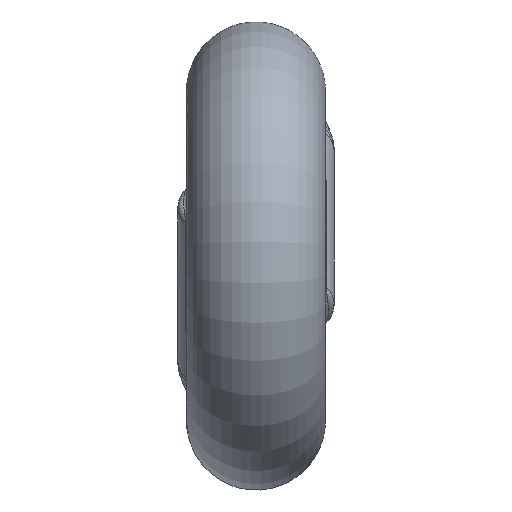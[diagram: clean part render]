
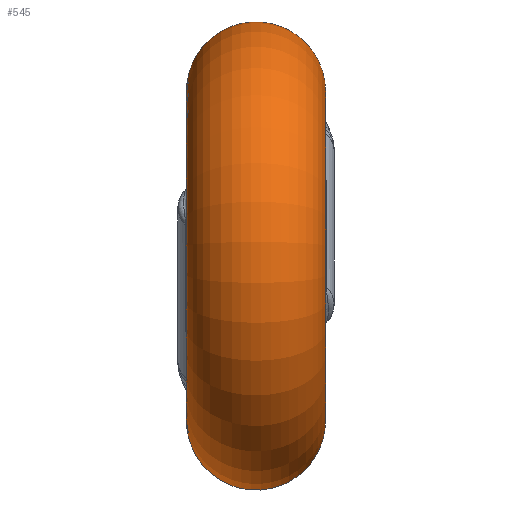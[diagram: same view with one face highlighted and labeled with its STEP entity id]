
A CAD part, left-side view. The second image highlights one B-rep face of the part: STEP entity #545.
In plain terms, the highlighted toroidal (fillet/blend) face has major radius 4.75 mm and minor radius 2 mm.
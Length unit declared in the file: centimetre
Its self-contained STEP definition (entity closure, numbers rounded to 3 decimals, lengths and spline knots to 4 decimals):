
#42=TOROIDAL_SURFACE('',#591,0.475,0.2);
#55=B_SPLINE_CURVE_WITH_KNOTS('',3,(#987,#988,#989,#990,#991,#992,#993),
 .UNSPECIFIED.,.F.,.F.,(4,1,1,1,4),(-0.2049,-0.1464,
-0.0878,-0.0439,0.),
 .UNSPECIFIED.);
#68=B_SPLINE_CURVE_WITH_KNOTS('',3,(#1414,#1415,#1416,#1417,#1418,#1419,
#1420),.UNSPECIFIED.,.F.,.F.,(4,1,1,1,4),(-0.2049,-0.1464,
-0.0878,-0.0439,0.),.UNSPECIFIED.);
#73=B_SPLINE_CURVE_WITH_KNOTS('',3,(#1707,#1708,#1709,#1710,#1711,#1712),
 .UNSPECIFIED.,.F.,.F.,(4,1,1,4),(-0.2392,-0.1709,
-0.1025,0.),.UNSPECIFIED.);
#75=B_SPLINE_CURVE_WITH_KNOTS('',3,(#1774,#1775,#1776,#1777,#1778,#1779,
#1780,#1781,#1782,#1783,#1784),.UNSPECIFIED.,.F.,.F.,(4,1,1,1,1,1,1,1,4),
(-0.4647,-0.3984,-0.332,-0.2656,
-0.1992,-0.1328,-0.0664,-0.0498,
0.),.UNSPECIFIED.);
#77=B_SPLINE_CURVE_WITH_KNOTS('',3,(#1803,#1804,#1805,#1806,#1807,#1808,
#1809,#1810,#1811,#1812,#1813),.UNSPECIFIED.,.F.,.F.,(4,1,1,1,1,1,1,1,4),
(-0.4647,-0.3983,-0.3319,-0.2656,
-0.1992,-0.1328,-0.0664,-0.0498,
0.),.UNSPECIFIED.);
#78=B_SPLINE_CURVE_WITH_KNOTS('',3,(#1816,#1817,#1818,#1819,#1820,#1821),
 .UNSPECIFIED.,.F.,.F.,(4,1,1,4),(-0.2392,-0.1709,
-0.1025,0.),.UNSPECIFIED.);
#99=FACE_BOUND('',#160,.T.);
#122=FACE_OUTER_BOUND('',#159,.T.);
#159=EDGE_LOOP('',(#427,#428,#429,#430));
#160=EDGE_LOOP('',(#431,#432,#433,#434));
#197=CIRCLE('',#592,0.475);
#198=CIRCLE('',#593,0.475);
#221=VERTEX_POINT('',#984);
#222=VERTEX_POINT('',#986);
#234=VERTEX_POINT('',#1411);
#235=VERTEX_POINT('',#1413);
#237=VERTEX_POINT('',#1563);
#244=VERTEX_POINT('',#1668);
#245=VERTEX_POINT('',#1802);
#246=VERTEX_POINT('',#1814);
#272=EDGE_CURVE('',#221,#222,#55,.T.);
#290=EDGE_CURVE('',#234,#235,#68,.T.);
#305=EDGE_CURVE('',#222,#244,#73,.T.);
#307=EDGE_CURVE('',#237,#221,#75,.T.);
#311=EDGE_CURVE('',#245,#234,#77,.T.);
#312=EDGE_CURVE('',#245,#246,#197,.T.);
#313=EDGE_CURVE('',#235,#246,#78,.T.);
#314=EDGE_CURVE('',#237,#244,#198,.T.);
#427=ORIENTED_EDGE('',*,*,#311,.F.);
#428=ORIENTED_EDGE('',*,*,#312,.T.);
#429=ORIENTED_EDGE('',*,*,#313,.F.);
#430=ORIENTED_EDGE('',*,*,#290,.F.);
#431=ORIENTED_EDGE('',*,*,#305,.F.);
#432=ORIENTED_EDGE('',*,*,#272,.F.);
#433=ORIENTED_EDGE('',*,*,#307,.F.);
#434=ORIENTED_EDGE('',*,*,#314,.T.);
#545=ADVANCED_FACE('',(#122,#99),#42,.T.);
#591=AXIS2_PLACEMENT_3D('',#1801,#677,#678);
#592=AXIS2_PLACEMENT_3D('',#1815,#679,#680);
#593=AXIS2_PLACEMENT_3D('',#1822,#681,#682);
#677=DIRECTION('center_axis',(0.,1.,0.));
#678=DIRECTION('ref_axis',(1.,0.,0.));
#679=DIRECTION('center_axis',(0.,1.,0.));
#680=DIRECTION('ref_axis',(-1.,0.,0.));
#681=DIRECTION('center_axis',(0.,-1.,0.));
#682=DIRECTION('ref_axis',(-1.,0.,0.));
#984=CARTESIAN_POINT('',(0.6017,0.0514,-0.3028));
#986=CARTESIAN_POINT('',(0.5176,0.177,-0.3882));
#987=CARTESIAN_POINT('Ctrl Pts',(0.6017,0.0514,-0.3028));
#988=CARTESIAN_POINT('Ctrl Pts',(0.5932,0.0526,-0.32));
#989=CARTESIAN_POINT('Ctrl Pts',(0.5758,0.0625,-0.3538));
#990=CARTESIAN_POINT('Ctrl Pts',(0.5529,0.0971,-0.388));
#991=CARTESIAN_POINT('Ctrl Pts',(0.5332,0.1393,-0.3989));
#992=CARTESIAN_POINT('Ctrl Pts',(0.5225,0.1651,-0.3934));
#993=CARTESIAN_POINT('Ctrl Pts',(0.5176,0.177,-0.3882));
#1411=CARTESIAN_POINT('',(0.6017,0.0986,0.3028));
#1413=CARTESIAN_POINT('',(0.5176,-0.027,0.3882));
#1414=CARTESIAN_POINT('Ctrl Pts',(0.6017,0.0986,
0.3028));
#1415=CARTESIAN_POINT('Ctrl Pts',(0.5932,0.0974,0.32));
#1416=CARTESIAN_POINT('Ctrl Pts',(0.5758,0.0875,
0.3538));
#1417=CARTESIAN_POINT('Ctrl Pts',(0.5529,0.0529,
0.388));
#1418=CARTESIAN_POINT('Ctrl Pts',(0.5332,0.0107,0.3989));
#1419=CARTESIAN_POINT('Ctrl Pts',(0.5225,-0.0151,
0.3934));
#1420=CARTESIAN_POINT('Ctrl Pts',(0.5176,-0.027,
0.3882));
#1563=CARTESIAN_POINT('',(0.4725,0.275,-0.0491));
#1668=CARTESIAN_POINT('',(0.4229,0.275,-0.2163));
#1707=CARTESIAN_POINT('Ctrl Pts',(0.5176,0.177,-0.3882));
#1708=CARTESIAN_POINT('Ctrl Pts',(0.51,0.1956,-0.38));
#1709=CARTESIAN_POINT('Ctrl Pts',(0.4959,0.2281,-0.3526));
#1710=CARTESIAN_POINT('Ctrl Pts',(0.4705,0.264,-0.2895));
#1711=CARTESIAN_POINT('Ctrl Pts',(0.4457,0.275,-0.2398));
#1712=CARTESIAN_POINT('Ctrl Pts',(0.4229,0.275,-0.2163));
#1774=CARTESIAN_POINT('Ctrl Pts',(0.4725,0.275,-0.0491));
#1775=CARTESIAN_POINT('Ctrl Pts',(0.4873,0.275,-0.0646));
#1776=CARTESIAN_POINT('Ctrl Pts',(0.522,0.2707,-0.0905));
#1777=CARTESIAN_POINT('Ctrl Pts',(0.5774,0.2443,-0.11));
#1778=CARTESIAN_POINT('Ctrl Pts',(0.6214,0.2012,-0.1278));
#1779=CARTESIAN_POINT('Ctrl Pts',(0.6468,0.1476,-0.1532));
#1780=CARTESIAN_POINT('Ctrl Pts',(0.6486,0.0946,-0.1916));
#1781=CARTESIAN_POINT('Ctrl Pts',(0.6349,0.0667,
-0.2305));
#1782=CARTESIAN_POINT('Ctrl Pts',(0.6184,0.0529,
-0.2683));
#1783=CARTESIAN_POINT('Ctrl Pts',(0.609,0.0505,
-0.2882));
#1784=CARTESIAN_POINT('Ctrl Pts',(0.6017,0.0514,
-0.3028));
#1801=CARTESIAN_POINT('Origin',(0.,0.075,0.));
#1802=CARTESIAN_POINT('',(0.4725,-0.125,0.0491));
#1803=CARTESIAN_POINT('Ctrl Pts',(0.4725,-0.125,0.0491));
#1804=CARTESIAN_POINT('Ctrl Pts',(0.4873,-0.125,0.0646));
#1805=CARTESIAN_POINT('Ctrl Pts',(0.522,-0.1207,
0.0905));
#1806=CARTESIAN_POINT('Ctrl Pts',(0.5774,-0.0943,
0.11));
#1807=CARTESIAN_POINT('Ctrl Pts',(0.6214,-0.0512,
0.1278));
#1808=CARTESIAN_POINT('Ctrl Pts',(0.6468,0.0025,
0.1532));
#1809=CARTESIAN_POINT('Ctrl Pts',(0.6486,0.0554,
0.1916));
#1810=CARTESIAN_POINT('Ctrl Pts',(0.6349,0.0833,
0.2305));
#1811=CARTESIAN_POINT('Ctrl Pts',(0.6184,0.0971,
0.2683));
#1812=CARTESIAN_POINT('Ctrl Pts',(0.609,0.0995,
0.2882));
#1813=CARTESIAN_POINT('Ctrl Pts',(0.6017,0.0986,
0.3028));
#1814=CARTESIAN_POINT('',(0.4229,-0.125,0.2163));
#1815=CARTESIAN_POINT('Origin',(0.,-0.125,0.));
#1816=CARTESIAN_POINT('Ctrl Pts',(0.5176,-0.027,
0.3882));
#1817=CARTESIAN_POINT('Ctrl Pts',(0.51,-0.0456,
0.38));
#1818=CARTESIAN_POINT('Ctrl Pts',(0.4959,-0.078,
0.3526));
#1819=CARTESIAN_POINT('Ctrl Pts',(0.4705,-0.114,0.2895));
#1820=CARTESIAN_POINT('Ctrl Pts',(0.4457,-0.125,
0.2398));
#1821=CARTESIAN_POINT('Ctrl Pts',(0.4229,-0.125,0.2163));
#1822=CARTESIAN_POINT('Origin',(0.,0.275,0.));
